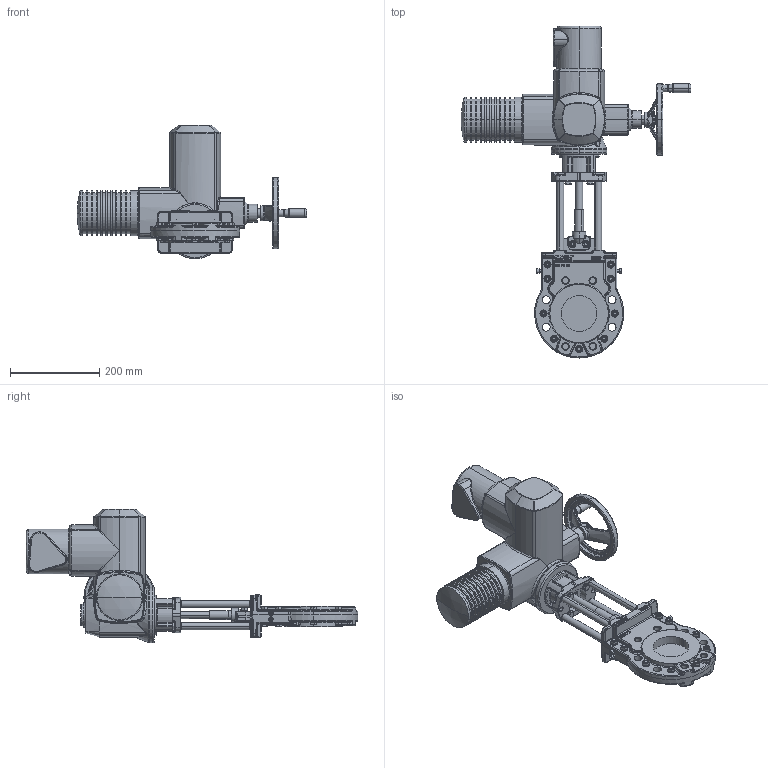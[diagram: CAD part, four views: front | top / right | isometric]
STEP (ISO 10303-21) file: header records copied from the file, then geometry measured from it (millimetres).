
FILE_DESCRIPTION (( 'STEP AP214' ), '1' );
FILE_NAME ('MGE DN 0080 PN10_16 (SA 07.2).STEP', '2015-09-23T08:37:58', ( 'admin' ), ( 'Hewlett-Packard Company' ), 'SwSTEP 2.0', 'SolidWorks 2013', '' );
FILE_SCHEMA (( 'AUTOMOTIVE_DESIGN' ));
Length unit declared in the file: millimetre
Products named in the file (1): MGE DN 0080 PN10_16 (SA 07.2)
Bounding box: 516 x 745.5 x 300.5 mm (x, y, z)
Volume: 9203851.1 mm3; surface area: 683483.3 mm2
Topology: 65 solids, 74 shells, 2961 faces, 6812 edges, 4035 vertices
Faces by surface type: plane 962, cylinder 777, cone 519, bspline 400, torus 245, sphere 58
Entity records: 136501 total; most frequent: CARTESIAN_POINT 38874, ORIENTED_EDGE 13444, DIRECTION 13333, EDGE_CURVE 6722, AXIS2_PLACEMENT_3D 5382, VERTEX_POINT 4035, EDGE_LOOP 3225, UNCERTAINTY_MEASURE_WITH_UNIT 3026
